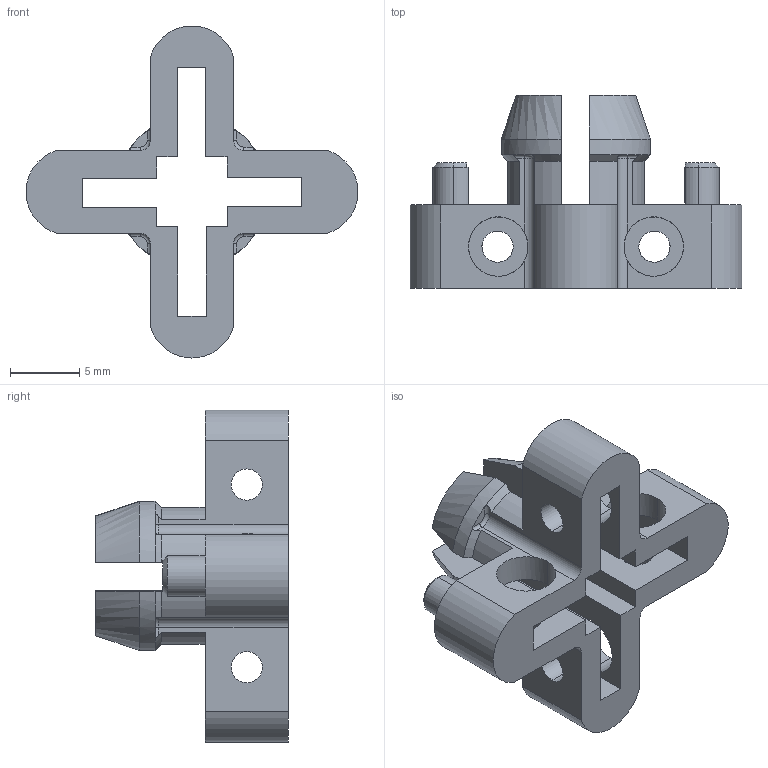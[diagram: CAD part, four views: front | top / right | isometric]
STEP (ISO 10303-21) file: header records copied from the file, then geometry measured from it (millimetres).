
FILE_DESCRIPTION (( 'STEP AP203' ), '1' );
FILE_NAME ('EVM_BusBar_Inst.STEP', '2017-04-21T16:42:50', ( '' ), ( '' ), 'SwSTEP 2.0', 'SolidWorks 2014', '' );
FILE_SCHEMA (( 'CONFIG_CONTROL_DESIGN' ));
Length unit declared in the file: millimetre
Products named in the file (1): EVM_BusBar_Inst
Bounding box: 24.02 x 13.95 x 24.03 mm (x, y, z)
Volume: 1148 mm3; surface area: 1757.5 mm2
Topology: 1 solids, 1 shells, 116 faces, 331 edges, 214 vertices
Faces by surface type: cylinder 51, plane 43, cone 14, bspline 4, torus 4
Entity records: 4044 total; most frequent: CARTESIAN_POINT 972, ORIENTED_EDGE 662, DIRECTION 592, EDGE_CURVE 331, VERTEX_POINT 214, AXIS2_PLACEMENT_3D 210, VECTOR 172, LINE 172
